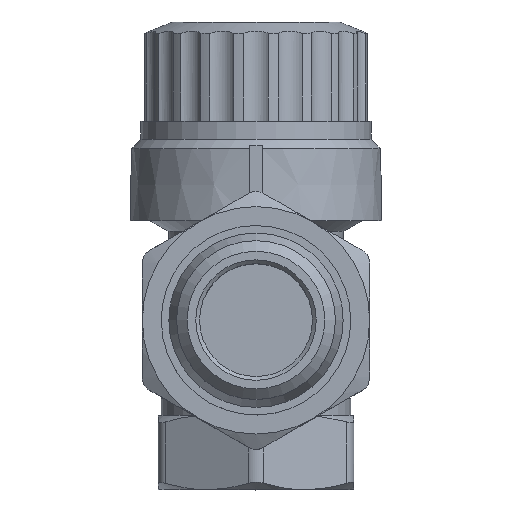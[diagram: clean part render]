
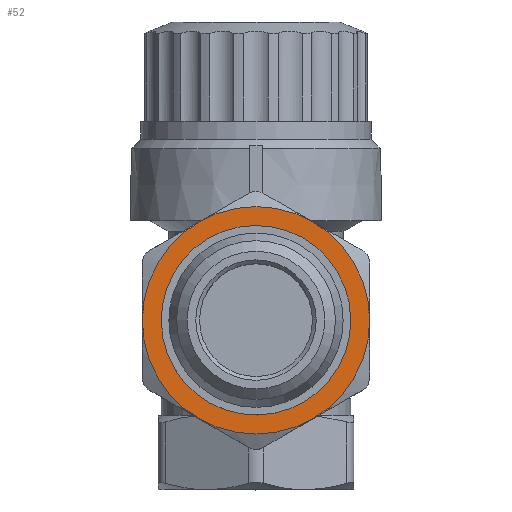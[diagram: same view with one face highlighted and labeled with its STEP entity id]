
A CAD part, top view. The second image highlights one B-rep face of the part: STEP entity #52.
In plain terms, the highlighted planar face has unit normal (0, 0, 1).
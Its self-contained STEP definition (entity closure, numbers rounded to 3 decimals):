
#52=ADVANCED_FACE('',(#610,#612),#614,.T.);
#610=FACE_BOUND('',#611,.T.);
#611=EDGE_LOOP('',(#4116,#4117,#4118,#4119,#4120,#4121));
#612=FACE_BOUND('',#613,.T.);
#613=EDGE_LOOP('',(#4122));
#614=PLANE('',#615);
#615=AXIS2_PLACEMENT_3D('',#616,#617,#618);
#616=CARTESIAN_POINT('',(0.,0.,35.307));
#617=DIRECTION('',(0.,0.,1.));
#618=DIRECTION('',(1.,0.,0.));
#4116=ORIENTED_EDGE('',*,*,#7351,.T.);
#4117=ORIENTED_EDGE('',*,*,#7352,.T.);
#4118=ORIENTED_EDGE('',*,*,#7353,.T.);
#4119=ORIENTED_EDGE('',*,*,#7354,.T.);
#4120=ORIENTED_EDGE('',*,*,#7355,.T.);
#4121=ORIENTED_EDGE('',*,*,#7356,.T.);
#4122=ORIENTED_EDGE('',*,*,#7348,.T.);
#7348=EDGE_CURVE('',#8715,#8715,#8716,.T.);
#7351=EDGE_CURVE('',#8721,#8722,#8723,.F.);
#7352=EDGE_CURVE('',#8722,#8724,#8725,.F.);
#7353=EDGE_CURVE('',#8724,#8726,#8727,.F.);
#7354=EDGE_CURVE('',#8726,#8728,#8729,.F.);
#7355=EDGE_CURVE('',#8728,#8730,#8731,.F.);
#7356=EDGE_CURVE('',#8730,#8721,#8732,.F.);
#8715=VERTEX_POINT('',#10995);
#8716=CIRCLE('',#10996,10.95);
#8721=VERTEX_POINT('',#11010);
#8722=VERTEX_POINT('',#11011);
#8723=CIRCLE('',#11012,15.);
#8724=VERTEX_POINT('',#11016);
#8725=CIRCLE('',#11017,15.);
#8726=VERTEX_POINT('',#11021);
#8727=CIRCLE('',#11022,15.);
#8728=VERTEX_POINT('',#11026);
#8729=CIRCLE('',#11027,15.);
#8730=VERTEX_POINT('',#11031);
#8731=CIRCLE('',#11032,15.);
#8732=CIRCLE('',#11036,15.);
#10995=CARTESIAN_POINT('',(0.,-10.95,35.307));
#10996=AXIS2_PLACEMENT_3D('',#10997,#10998,#10999);
#10997=CARTESIAN_POINT('',(0.,0.,35.307));
#10998=DIRECTION('',(0.,0.,-1.));
#10999=DIRECTION('',(0.,-1.,0.));
#11010=CARTESIAN_POINT('',(7.5,-12.99,35.307));
#11011=CARTESIAN_POINT('',(15.,0.,35.307));
#11012=AXIS2_PLACEMENT_3D('',#11013,#11014,#11015);
#11013=CARTESIAN_POINT('',(0.,0.,35.307));
#11014=DIRECTION('',(0.,0.,-1.));
#11015=DIRECTION('',(1.,0.,0.));
#11016=CARTESIAN_POINT('',(7.5,12.99,35.307));
#11017=AXIS2_PLACEMENT_3D('',#11018,#11019,#11020);
#11018=CARTESIAN_POINT('',(0.,0.,35.307));
#11019=DIRECTION('',(0.,0.,-1.));
#11020=DIRECTION('',(0.5,0.866,0.));
#11021=CARTESIAN_POINT('',(-7.5,12.99,35.307));
#11022=AXIS2_PLACEMENT_3D('',#11023,#11024,#11025);
#11023=CARTESIAN_POINT('',(0.,0.,35.307));
#11024=DIRECTION('',(0.,0.,-1.));
#11025=DIRECTION('',(-0.5,0.866,0.));
#11026=CARTESIAN_POINT('',(-15.,0.,35.307));
#11027=AXIS2_PLACEMENT_3D('',#11028,#11029,#11030);
#11028=CARTESIAN_POINT('',(0.,0.,35.307));
#11029=DIRECTION('',(0.,0.,-1.));
#11030=DIRECTION('',(-1.,0.,0.));
#11031=CARTESIAN_POINT('',(-7.5,-12.99,35.307));
#11032=AXIS2_PLACEMENT_3D('',#11033,#11034,#11035);
#11033=CARTESIAN_POINT('',(0.,0.,35.307));
#11034=DIRECTION('',(0.,0.,-1.));
#11035=DIRECTION('',(-0.5,-0.866,0.));
#11036=AXIS2_PLACEMENT_3D('',#11037,#11038,#11039);
#11037=CARTESIAN_POINT('',(0.,0.,35.307));
#11038=DIRECTION('',(0.,0.,-1.));
#11039=DIRECTION('',(0.5,-0.866,0.));
